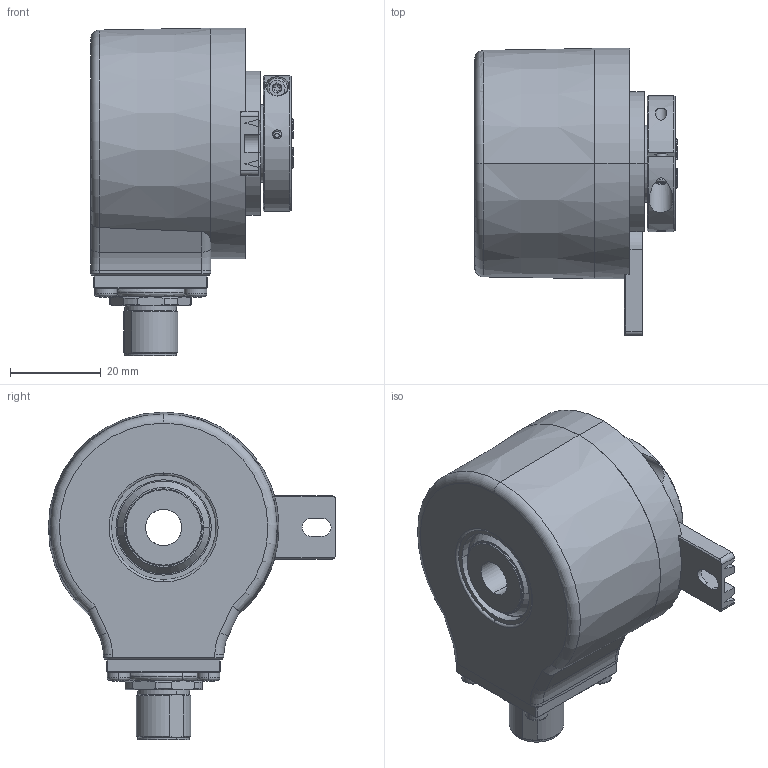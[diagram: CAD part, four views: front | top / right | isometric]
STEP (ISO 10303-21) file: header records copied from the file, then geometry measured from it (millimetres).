
FILE_DESCRIPTION (( 'STEP AP203' ), '1' );
FILE_NAME ('8.5020.297R.XXXX.STEP', '2017-04-05T12:23:21', ( '' ), ( '' ), 'SwSTEP 2.0', 'SolidWorks 2017', '' );
FILE_SCHEMA (( 'CONFIG_CONTROL_DESIGN' ));
Length unit declared in the file: millimetre
Products named in the file (1): 8.5020.297R.XXXX
Bounding box: 44.7 x 63.3 x 72.2 mm (x, y, z)
Surface area: 38302.7 mm2 (no closed solid volume)
Topology: 0 solids, 24 shells, 819 faces, 2006 edges, 1237 vertices
Faces by surface type: plane 292, cylinder 250, cone 134, torus 69, sphere 48, bspline 26
Entity records: 25845 total; most frequent: CARTESIAN_POINT 6828, DIRECTION 4157, ORIENTED_EDGE 3788, EDGE_CURVE 1902, AXIS2_PLACEMENT_3D 1680, VERTEX_POINT 1183, EDGE_LOOP 953, CIRCLE 886
